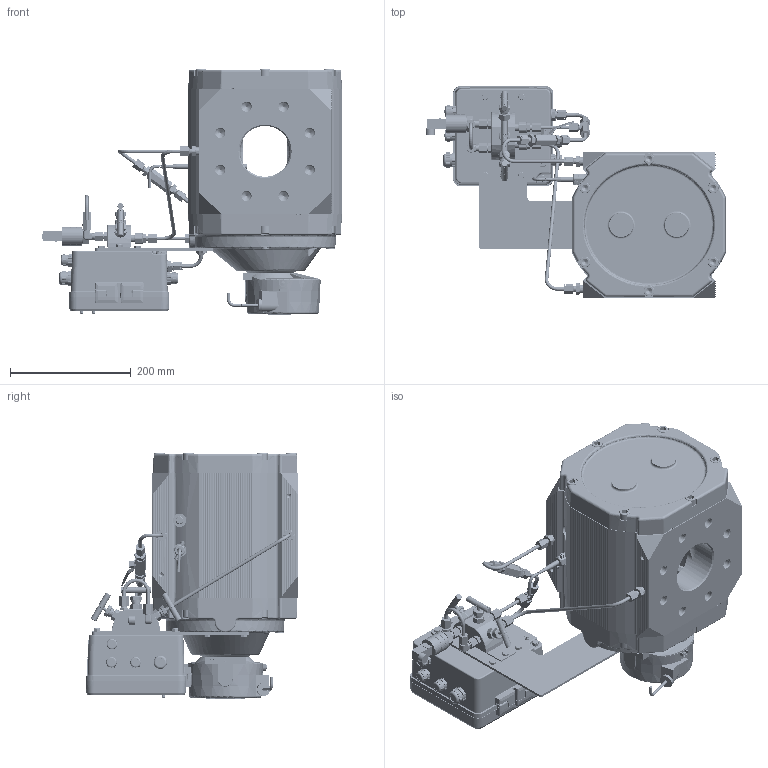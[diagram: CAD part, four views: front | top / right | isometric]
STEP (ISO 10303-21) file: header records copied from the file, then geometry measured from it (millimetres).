
FILE_DESCRIPTION(('STEP AP242'), '1');
FILE_NAME('ÑÃ-ÝÊÐ-Ð-250 c ÏÏÄ ñâåðõó âíèç, êîðð ñïðàâà', '', ('UNSPECIFIED'), ('UNSPECIFIED'), 'C3D Converter', 'C3D Toolkit', '');
FILE_SCHEMA(('AP242_MANAGED_MODEL_BASED_3D_ENGINEERING_MIM_LF { 1 0 10303 442 1 1 4 }'));
Length unit declared in the file: millimetre
Bounding box: 497.5 x 351 x 406.4 mm (x, y, z)
Volume: 10342639 mm3; surface area: 1630013.4 mm2
Topology: 177 solids, 178 shells, 9811 faces, 25402 edges, 16485 vertices
Faces by surface type: plane 3351, extrusion 2893, cylinder 1966, cone 886, bspline 370, torus 307, sphere 38
Full cylindrical faces by diameter (mm): 1.5 x8, 1.95 x3, 2 x41, 2.2 x14, 2.3 x8, 2.459 x11, 2.5 x20, 2.791 x2, 3 x24, 3.1 x1, 3.2 x13, 3.242 x7, 3.3 x4, 3.45 x3, 3.459 x2, 3.688 x1, 4 x44, 4.134 x1, 4.3 x12, 4.5 x1, 4.917 x15, 5 x34, 5.2 x12, 5.5 x8, 6 x61, 6.2 x6, 6.5 x6, 6.6 x4, 6.75 x2, 7 x16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
Entity records: 516097 total; most frequent: CARTESIAN_POINT 217760, ORIENTED_EDGE 47693, DIRECTION 35505, EDGE_CURVE 23847, VERTEX_POINT 16386, VECTOR 13515, EDGE_LOOP 12201, B_SPLINE_CURVE_WITH_KNOTS 11169
